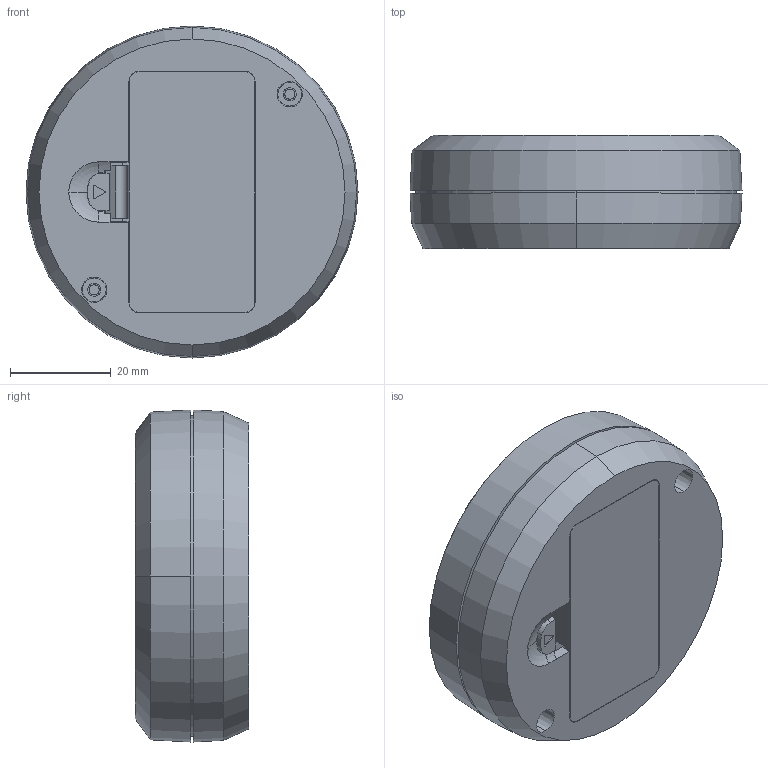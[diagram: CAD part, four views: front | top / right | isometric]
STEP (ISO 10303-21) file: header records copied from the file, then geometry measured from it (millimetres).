
FILE_DESCRIPTION (( 'STEP AP203' ), '1' );
FILE_NAME ('HH-043.STEP', '2019-05-09T13:43:50', ( '' ), ( '' ), 'SwSTEP 2.0', 'SolidWorks 2018', '' );
FILE_SCHEMA (( 'CONFIG_CONTROL_DESIGN' ));
Length unit declared in the file: millimetre
Products named in the file (5): HH-043; pcb_sample; pil_kapagi; taban; kapak
Assembly tree (4 placements, depth 2):
  HH-043
    taban
    kapak
    pil_kapagi
    pcb_sample
Bounding box: 66 x 22.5 x 66 mm (x, y, z)
Volume: 24358 mm3; surface area: 29948.1 mm2
Topology: 4 solids, 4 shells, 316 faces, 827 edges, 533 vertices
Faces by surface type: plane 219, cone 54, cylinder 37, bspline 4, torus 2
Entity records: 10362 total; most frequent: CARTESIAN_POINT 2161, ORIENTED_EDGE 1654, DIRECTION 1515, EDGE_CURVE 827, LINE 585, VECTOR 585, VERTEX_POINT 533, AXIS2_PLACEMENT_3D 465
